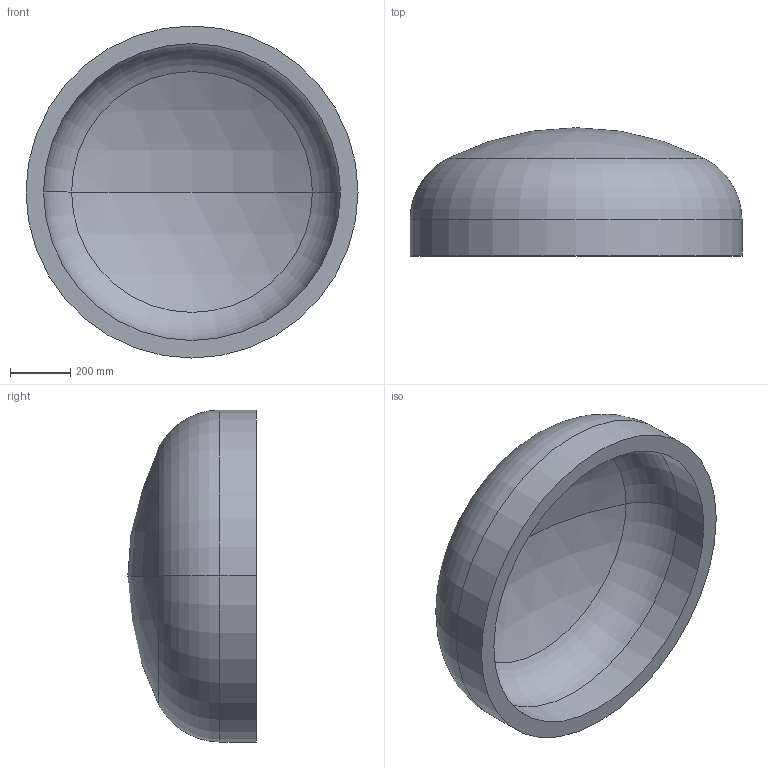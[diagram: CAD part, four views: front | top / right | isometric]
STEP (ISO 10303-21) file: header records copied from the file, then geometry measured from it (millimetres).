
FILE_DESCRIPTION (( 'STEP AP203' ), '1' );
FILE_NAME ('DIN 28013 Korbbogenform_-_Boden DIN 28013 - 1100 x 120 - I - s=58.step', '2016-07-01T09:10:53', ( '' ), ( '' ), 'SwSTEP 2.0', 'SolidWorks 2013', '' );
FILE_SCHEMA (( 'CONFIG_CONTROL_DESIGN' ));
Length unit declared in the file: millimetre
Products named in the file (1): DIN 28013 Korbbogenform_-_Boden DIN 28013 - 1100 x 120 - I - s=58
Bounding box: 1100 x 425.22 x 1100 mm (x, y, z)
Volume: 94184637.5 mm3; surface area: 3444656.2 mm2
Topology: 1 solids, 1 shells, 13 faces, 24 edges, 14 vertices
Faces by surface type: torus 4, cylinder 4, sphere 4, plane 1
Entity records: 407 total; most frequent: DIRECTION 72, CARTESIAN_POINT 52, ORIENTED_EDGE 48, AXIS2_PLACEMENT_3D 34, EDGE_CURVE 24, CIRCLE 20, VERTEX_POINT 14, EDGE_LOOP 14
